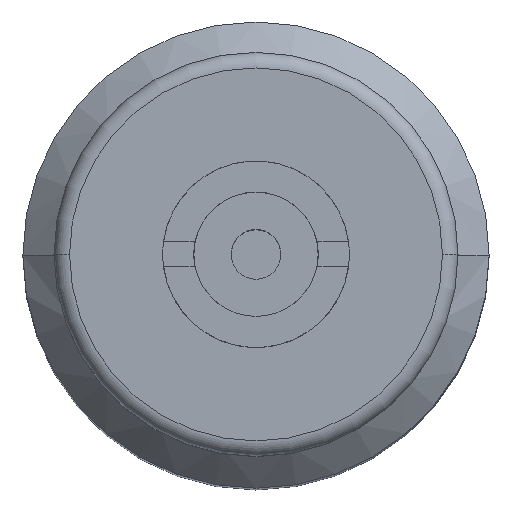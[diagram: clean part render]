
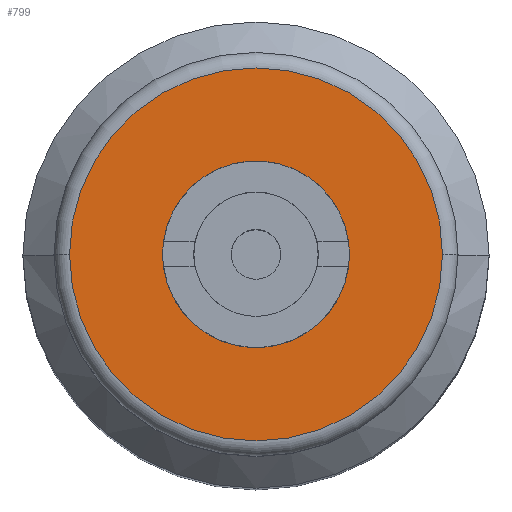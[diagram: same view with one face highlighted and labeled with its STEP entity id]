
A CAD part, top view. The second image highlights one B-rep face of the part: STEP entity #799.
In plain terms, the highlighted planar face has unit normal (0, 0, 1).
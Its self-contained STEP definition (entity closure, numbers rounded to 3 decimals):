
#544=AXIS2_PLACEMENT_3D('Circle Axis2P3D',#542,#543,$) ;
#586=AXIS2_PLACEMENT_3D('Circle Axis2P3D',#584,#585,$) ;
#775=AXIS2_PLACEMENT_3D('Plane Axis2P3D',#772,#773,#774) ;
#779=AXIS2_PLACEMENT_3D('Circle Axis2P3D',#777,#778,$) ;
#788=AXIS2_PLACEMENT_3D('Circle Axis2P3D',#786,#787,$) ;
#539=CARTESIAN_POINT('Vertex',(-6.,0.,96.2)) ;
#542=CARTESIAN_POINT('Axis2P3D Location',(0.,0.,96.2)) ;
#546=CARTESIAN_POINT('Vertex',(6.,0.,96.2)) ;
#584=CARTESIAN_POINT('Axis2P3D Location',(0.,0.,96.2)) ;
#772=CARTESIAN_POINT('Axis2P3D Location',(0.,0.,96.2)) ;
#777=CARTESIAN_POINT('Axis2P3D Location',(0.,0.,96.2)) ;
#781=CARTESIAN_POINT('Vertex',(-12.,0.,96.2)) ;
#783=CARTESIAN_POINT('Vertex',(12.,0.,96.2)) ;
#786=CARTESIAN_POINT('Axis2P3D Location',(0.,0.,96.2)) ;
#543=DIRECTION('Axis2P3D Direction',(0.,0.,1.)) ;
#585=DIRECTION('Axis2P3D Direction',(0.,0.,1.)) ;
#773=DIRECTION('Axis2P3D Direction',(0.,0.,1.)) ;
#774=DIRECTION('Axis2P3D XDirection',(1.,0.,0.)) ;
#778=DIRECTION('Axis2P3D Direction',(0.,0.,1.)) ;
#787=DIRECTION('Axis2P3D Direction',(0.,0.,1.)) ;
#792=ORIENTED_EDGE('',*,*,#785,.T.) ;
#793=ORIENTED_EDGE('',*,*,#790,.T.) ;
#796=ORIENTED_EDGE('',*,*,#588,.F.) ;
#797=ORIENTED_EDGE('',*,*,#548,.F.) ;
#798=FACE_BOUND('',#795,.T.) ;
#799=ADVANCED_FACE('\X2\96F64EF651E04F554F53\X0\',(#794,#798),#776,.T.) ;
#545=CIRCLE('generated circle',#544,6.) ;
#587=CIRCLE('generated circle',#586,6.) ;
#780=CIRCLE('generated circle',#779,12.) ;
#789=CIRCLE('generated circle',#788,12.) ;
#548=EDGE_CURVE('',#540,#547,#545,.T.) ;
#588=EDGE_CURVE('',#547,#540,#587,.T.) ;
#785=EDGE_CURVE('',#782,#784,#780,.T.) ;
#790=EDGE_CURVE('',#784,#782,#789,.T.) ;
#791=EDGE_LOOP('',(#792,#793)) ;
#795=EDGE_LOOP('',(#796,#797)) ;
#794=FACE_OUTER_BOUND('',#791,.T.) ;
#776=PLANE('',#775) ;
#540=VERTEX_POINT('',#539) ;
#547=VERTEX_POINT('',#546) ;
#782=VERTEX_POINT('',#781) ;
#784=VERTEX_POINT('',#783) ;
